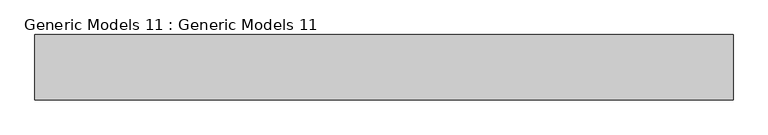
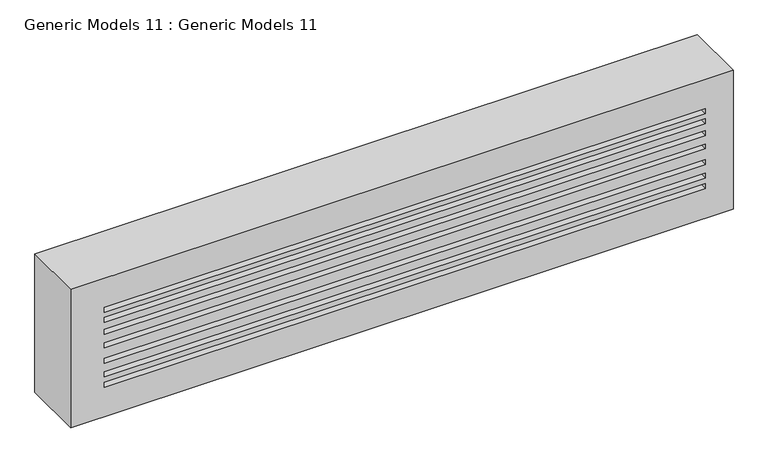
"""IFC4 building model written with IfcOpenShell, lengths in millimetres: proxy geometry, Generic Models 11 : Generic Models 11."""

import ifcopenshell
import ifcopenshell.guid

model = None  # the IFC model being written
_history = None  # IfcOwnerHistory: only IFC2X3 demands one
_inside = {}  # id of a spatial element -> (the spatial element, [elements in it])
_under = {}  # id of a project, library or spatial element -> (it, [spatial elements below it])
_declared = {}  # id of a project -> (the project, [libraries it declares])
_typed = {}  # id of a type object -> (the type object, [elements of that type])
_made_of = {}  # id of a material, layer set ... -> (it, [elements and type objects made of it])


def new_model(schema):
    """Start an empty IFC model of exactly this schema.

    Asked for "IFC4X3", IfcOpenShell would pick the latest addendum, in which some entities
    have other attributes; the version numbers below select the first issue.
    IFC2X3 requires an IfcOwnerHistory on every rooted entity: one is made here for all.
    """
    global model, _history
    if schema == "IFC4X3":
        model = ifcopenshell.file(schema_version=(4, 3, 0, 0))
    else:
        model = ifcopenshell.file(schema=schema)
    _inside.clear()
    _under.clear()
    _declared.clear()
    _typed.clear()
    _made_of.clear()
    _history = None
    if model.schema == "IFC2X3":
        org = make("IfcOrganization", Name="unknown")
        user = make(
            "IfcPersonAndOrganization",
            ThePerson=make("IfcPerson", FamilyName="unknown"),
            TheOrganization=org,
        )
        app = make(
            "IfcApplication",
            ApplicationDeveloper=org,
            Version="unknown",
            ApplicationFullName="unknown",
            ApplicationIdentifier="unknown",
        )
        _history = make(
            "IfcOwnerHistory",
            OwningUser=user,
            OwningApplication=app,
            ChangeAction="ADDED",
            CreationDate=0,
        )
    return model


def make(cls, **values):
    """One entity of the class cls with the attributes given. An attribute that is None is left unset."""
    return model.create_entity(
        cls, **{name: value for name, value in values.items() if value is not None}
    )


def rooted(cls, **values):
    """An entity with a GlobalId (a new one), such as an element, a storey or a relation."""
    return make(cls, GlobalId=ifcopenshell.guid.new(), OwnerHistory=_history, **values)


def si_unit(unit_type, name, prefix=None):
    """IfcSIUnit, for example si_unit("LENGTHUNIT", "METRE", prefix="MILLI")."""
    return make("IfcSIUnit", UnitType=unit_type, Prefix=prefix, Name=name)


def assignment(units):
    """IfcUnitAssignment: the units of a project."""
    return None if units is None else make("IfcUnitAssignment", Units=units)


def point(xyz):
    """IfcCartesianPoint."""
    return None if xyz is None else make("IfcCartesianPoint", Coordinates=xyz)


def direction(xyz):
    """IfcDirection."""
    return None if xyz is None else make("IfcDirection", DirectionRatios=xyz)


def frame(location, z_axis=None, x_axis=None):
    """IfcAxis2Placement3D, a coordinate frame: its origin and axes. An axis left out is left unset."""
    return make(
        "IfcAxis2Placement3D",
        Location=point(location),
        Axis=direction(z_axis),
        RefDirection=direction(x_axis),
    )


def origin():
    """The frame at (0, 0, 0) with its axes left unset."""
    return frame((0.0, 0.0, 0.0))


def place(relative_to, where):
    """IfcLocalPlacement: puts the frame where relative to a parent placement (None: the world)."""
    return make(
        "IfcLocalPlacement", PlacementRelTo=relative_to, RelativePlacement=where
    )


def context(
    kind, dimensions, precision=None, world=None, true_north=None, identifier=None
):
    """IfcGeometricRepresentationContext, for example the 3D "Model" context."""
    return make(
        "IfcGeometricRepresentationContext",
        ContextIdentifier=identifier,
        ContextType=kind,
        CoordinateSpaceDimension=dimensions,
        Precision=precision,
        WorldCoordinateSystem=world,
        TrueNorth=true_north,
    )


def project(units=None, contexts=None):
    """IfcProject with its units and contexts."""
    return rooted(
        "IfcProject",
        Name="project",
        RepresentationContexts=contexts,
        UnitsInContext=assignment(units),
    )


def spatial(cls, under=None, at=None, **own):
    """A site, building, storey or space (cls), placed at a placement, below another one or the project."""
    s = rooted(cls, ObjectPlacement=at, **own)
    if under is not None:
        _under.setdefault(under.id(), (under, []))[1].append(s)
    return s


def polyline(points):
    """IfcPolyline through the points."""
    return make("IfcPolyline", Points=[point(p) for p in points])


def outline(outer, holes=None, kind="AREA"):
    """IfcArbitraryClosedProfileDef: a profile drawn as a closed curve; with holes, ...WithVoids."""
    if holes is None:
        return make("IfcArbitraryClosedProfileDef", ProfileType=kind, OuterCurve=outer)
    return make(
        "IfcArbitraryProfileDefWithVoids",
        ProfileType=kind,
        OuterCurve=outer,
        InnerCurves=holes,
    )


def extrude(swept, where, along, depth):
    """IfcExtrudedAreaSolid: the profile swept, set in the frame where, extruded along a direction by depth."""
    return make(
        "IfcExtrudedAreaSolid",
        SweptArea=swept,
        Position=where,
        ExtrudedDirection=direction(along),
        Depth=depth,
    )


def shape(context_of_items, identifier, shape_type, items):
    """IfcShapeRepresentation: the items that make up one representation, for example the "Body"."""
    return make(
        "IfcShapeRepresentation",
        ContextOfItems=context_of_items,
        RepresentationIdentifier=identifier,
        RepresentationType=shape_type,
        Items=items,
    )


def source(mapping_origin, context_of_items, identifier, shape_type, items):
    """IfcRepresentationMap: a shape defined once, which mapped items show again and again."""
    return make(
        "IfcRepresentationMap",
        MappingOrigin=mapping_origin,
        MappedRepresentation=shape(context_of_items, identifier, shape_type, items),
    )


def transform(
    local_origin,
    x_axis=None,
    y_axis=None,
    z_axis=None,
    scale=None,
    scale2=None,
    scale3=None,
    uniform=True,
):
    """IfcCartesianTransformationOperator3D, or its non-uniform kind. x_axis, y_axis, z_axis: its Axis1, 2, 3."""
    if uniform:
        return make(
            "IfcCartesianTransformationOperator3D",
            Axis1=direction(x_axis),
            Axis2=direction(y_axis),
            LocalOrigin=point(local_origin),
            Scale=scale,
            Axis3=direction(z_axis),
        )
    return make(
        "IfcCartesianTransformationOperator3DnonUniform",
        Axis1=direction(x_axis),
        Axis2=direction(y_axis),
        LocalOrigin=point(local_origin),
        Scale=scale,
        Axis3=direction(z_axis),
        Scale2=scale2,
        Scale3=scale3,
    )


def mapped(mapping_source, mapping_target):
    """IfcMappedItem: shows the shape of a source again, moved by a transform."""
    return make(
        "IfcMappedItem", MappingSource=mapping_source, MappingTarget=mapping_target
    )


def made_of(thing, what):
    """Note that an element or type object is made of a material, layer set ...; save() writes the relation."""
    if what is not None:
        _made_of.setdefault(what.id(), (what, []))[1].append(thing)
    return thing


def element(
    cls,
    number,
    at=None,
    inside=None,
    cuts=None,
    type_object=None,
    material=None,
    context=None,
    identifier="Body",
    shape_type=None,
    held_by="IfcProductDefinitionShape",
    body=None,
    shapes=None,
    **own,
):
    """One element of the class cls, such as IfcWall. Its Tag is "e" and its number.

    at: its placement. inside: the storey or other place that contains it. cuts: it is an
    opening in that element (IfcRelVoidsElement). A single representation is given by context,
    identifier, shape_type and body (its items); several are given by shapes. held_by: the class
    of the entity that holds the representations. save() writes the other relations.
    """
    e = rooted(cls, Tag="e%d" % number, ObjectPlacement=at, **own)
    if body is not None:
        shapes = [shape(context, identifier, shape_type, body)]
    if shapes is not None:
        e.Representation = make(held_by, Representations=shapes)
    if inside is not None:
        _inside.setdefault(inside.id(), (inside, []))[1].append(e)
    if cuts is not None:
        rooted(
            "IfcRelVoidsElement", RelatingBuildingElement=cuts, RelatedOpeningElement=e
        )
    if type_object is not None:
        _typed.setdefault(type_object.id(), (type_object, []))[1].append(e)
    return made_of(e, material)


def aggregate(whole, parts):
    """IfcRelAggregates: a whole, such as a stair, and the parts it consists of."""
    return rooted("IfcRelAggregates", RelatingObject=whole, RelatedObjects=parts)


def save(model, path):
    """Write the relations noted so far, then the file.

    IfcRelAggregates (storeys below a building ...), IfcRelContainedInSpatialStructure (elements
    in a storey), IfcRelDefinesByType, IfcRelAssociatesMaterial and IfcRelDeclares: one each for
    every whole, place, type object, material and project.
    """
    for whole, parts in _under.values():
        aggregate(whole, parts)
    for where, things in _inside.values():
        rooted(
            "IfcRelContainedInSpatialStructure",
            RelatedElements=things,
            RelatingStructure=where,
        )
    for kind, things in _typed.values():
        rooted("IfcRelDefinesByType", RelatedObjects=things, RelatingType=kind)
    for what, things in _made_of.values():
        rooted("IfcRelAssociatesMaterial", RelatedObjects=things, RelatingMaterial=what)
    for by, libraries in _declared.values():
        rooted("IfcRelDeclares", RelatingContext=by, RelatedDefinitions=libraries)
    model.write(path)


def generic_models_11_generic_models_11_a93a03da(model_context):
    return source(origin(), model_context, "Body", "SweptSolid", [
        extrude(outline(polyline([(2820.0, 99604.3502509), (2820.0, 96783.359081), (2195.7243089, 96783.359081), (2195.7243089, 99604.3502509), (2820.0, 99604.3502509)]), holes=[polyline([(2688.4241239, 99485.584053), (2666.2255497, 99485.584053), (2666.2255497, 96925.584053), (2688.4241239, 96925.584053), (2688.4241239, 99485.584053)]), polyline([(2643.4241239, 99485.584053), (2621.2255497, 99485.584053), (2621.2255497, 96925.584053), (2643.4241239, 96925.584053), (2643.4241239, 99485.584053)]), polyline([(2590.2246181, 99485.584053), (2568.026044, 99485.584053), (2568.026044, 96925.584053), (2590.2246181, 96925.584053), (2590.2246181, 99485.584053)]), polyline([(2530.2246181, 99485.584053), (2508.026044, 99485.584053), (2508.026044, 96925.584053), (2530.2246181, 96925.584053), (2530.2246181, 99485.584053)]), polyline([(2459.146365, 99485.584053), (2436.9477909, 99485.584053), (2436.9477909, 96925.584053), (2459.146365, 96925.584053), (2459.146365, 99485.584053)]), polyline([(2399.146365, 99485.584053), (2376.9477909, 99485.584053), (2376.9477909, 96925.584053), (2399.146365, 96925.584053), (2399.146365, 99485.584053)]), polyline([(2351.8178047, 99485.584053), (2329.6192306, 99485.584053), (2329.6192306, 96925.584053), (2351.8178047, 96925.584053), (2351.8178047, 99485.584053)])]), frame((0.0, 14356.0304058, 0.0), z_axis=(0.0, 1.0, 0.0), x_axis=(0.0, 0.0, 1.0)), (0.0, 0.0, 1.0), 263.5955784),
    ])


if __name__ == "__main__":
    model = new_model("IFC4")
    model_context = context("Model", 3, world=origin())
    ifc_project = project(units=[si_unit("LENGTHUNIT", "METRE", prefix="MILLI")], contexts=[model_context])
    site = spatial("IfcSite", under=ifc_project)
    building = spatial("IfcBuilding", under=site)
    placement = place(None, origin())
    generic_models_11_generic_models_11_shape = generic_models_11_generic_models_11_a93a03da(model_context)
    element("IfcBuildingElementProxy", 1, Name="Generic Models 11 : Generic Models 11", ObjectType="Generic Models 11 : Generic Models 11", at=placement, inside=building, context=model_context, shape_type="MappedRepresentation", body=[
        mapped(generic_models_11_generic_models_11_shape, transform((0.0, 0.0, 0.0), x_axis=(1.0, 0.0, 0.0), y_axis=(0.0, 1.0, 0.0), z_axis=(0.0, 0.0, 1.0))),
    ])
    save(model, "model.ifc")
